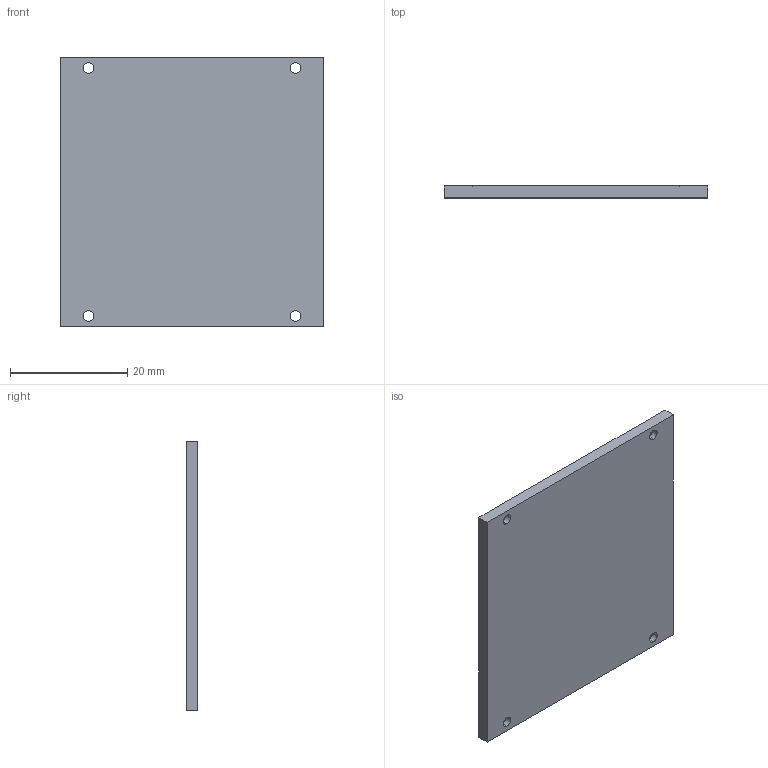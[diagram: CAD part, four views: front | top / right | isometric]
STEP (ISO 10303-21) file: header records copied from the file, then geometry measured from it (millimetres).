
FILE_DESCRIPTION (( 'STEP AP203' ), '1' );
FILE_NAME ('裔赽.STEP', '2026-01-29T09:08:26', ( '' ), ( '' ), 'SwSTEP 2.0', 'SolidWorks 2022', '' );
FILE_SCHEMA (( 'CONFIG_CONTROL_DESIGN' ));
Length unit declared in the file: millimetre
Products named in the file (1): 裔赽
Bounding box: 45 x 2 x 46 mm (x, y, z)
Volume: 4107.4 mm3; surface area: 4521.2 mm2
Topology: 1 solids, 1 shells, 22 faces, 56 edges, 32 vertices
Faces by surface type: cone 8, cylinder 8, plane 6
Entity records: 749 total; most frequent: DIRECTION 126, ORIENTED_EDGE 112, CARTESIAN_POINT 111, EDGE_CURVE 56, AXIS2_PLACEMENT_3D 47, VECTOR 32, LINE 32, VERTEX_POINT 32
